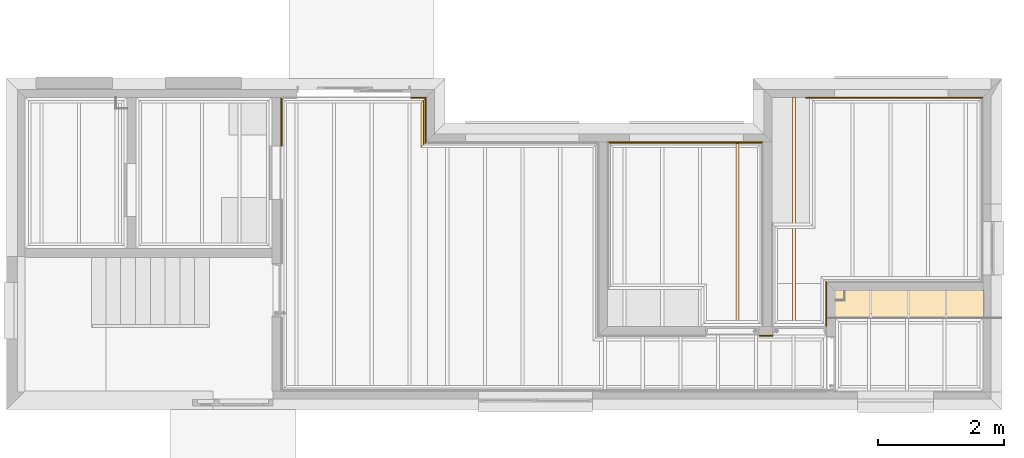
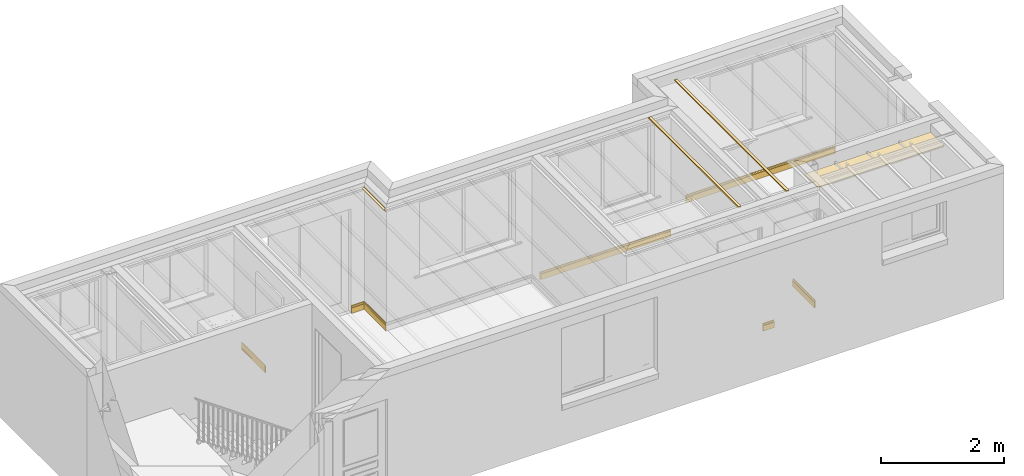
# One storey, part 5 of 15: 11 coverings.
"""IFC2X3 building model written with IfcOpenShell, lengths in millimetres."""

from ifc_helpers import new_model, entity, si_unit, converted_unit, money_unit, direction, frame, origin_with_axes, place, context, subcontext, project, spatial, faceted_brep, source, transform, mapped, material, type_object, element, save


model = new_model("IFC2X3")

# Units and contexts
model_context = context("Model", 3, precision=1e-05, world=origin_with_axes(), true_north=direction((0.0, 1.0)))
body_context = subcontext(model_context, "Body", "Model", "MODEL_VIEW")
ifc_project = project(units=[si_unit("LENGTHUNIT", "METRE", prefix="MILLI"), si_unit("AREAUNIT", "SQUARE_METRE"), si_unit("VOLUMEUNIT", "CUBIC_METRE"), converted_unit("PLANEANGLEUNIT", "DEGREE", entity("IfcPlaneAngleMeasure", 0.0174532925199), si_unit("PLANEANGLEUNIT", "RADIAN"), dimensions=[0, 0, 0, 0, 0, 0, 0]), si_unit("SOLIDANGLEUNIT", "STERADIAN"), money_unit("AUD"), si_unit("TIMEUNIT", "SECOND"), si_unit("MASSUNIT", "GRAM"), si_unit("THERMODYNAMICTEMPERATUREUNIT", "DEGREE_CELSIUS"), si_unit("LUMINOUSINTENSITYUNIT", "LUMEN")], contexts=[model_context])

# Site, building, storey
site_placement = place(None, origin_with_axes())
site = spatial("IfcSite", under=ifc_project, at=site_placement, Name="Lot 1. East Hills", CompositionType="ELEMENT")
building_placement = place(site_placement, origin_with_axes())
building = spatial("IfcBuilding", under=site, at=building_placement, Name="Proposed Units 7 & 8", CompositionType="ELEMENT")
storey_placement = place(building_placement, frame((0.0, 0.0, 3202.0), z_axis=(0.0, 0.0, 1.0), x_axis=(1.0, 0.0, 0.0)))
storey = spatial("IfcBuildingStorey", under=building, at=storey_placement, Name="Ground", CompositionType="ELEMENT", Elevation=3202.0)

# Coverings
ifc_material = material(Name="50 %")
covering_type_1 = type_object("IfcCoveringType", Name="CEILING BATTEN", PredefinedType="NOTDEFINED")
shared_shape_1 = source(origin_with_axes(), body_context, "Body", "Brep", [
    faceted_brep([(0.0, 0.0, 0.0), (0.0, 0.0, 25.0), (-2935.00000134, 0.0, 25.0), (-2935.00000134, 0.0, 0.0), (0.0, 50.0, 0.0), (0.0, 50.0, 25.0), (-2935.00000134, 50.0, 25.0), (-2935.00000134, 50.0, 0.0)], [[[0, 1, 2, 3]], [[4, 5, 1, 0]], [[1, 5, 6, 2]], [[3, 2, 6, 7]], [[0, 3, 7, 4]], [[7, 6, 5, 4]]]),
])
covering_1_placement = place(storey_placement, frame((11656.4701329, 4258.00000119, 2482.0), z_axis=(0.0, 0.0, 1.0), x_axis=(0.0, 1.0, 0.0)))
element("IfcCovering", 1, at=covering_1_placement, inside=storey, type_object=covering_type_1, material=ifc_material, Name="CEL-WALL-G02 - CEILING BATTEN - object -", PredefinedType="CEILING", context=body_context, shape_type="MappedRepresentation", body=[
    mapped(shared_shape_1, transform((0.0, 0.0, 0.0))),
])
shared_shape_2 = source(origin_with_axes(), body_context, "Body", "Brep", [
    faceted_brep([(0.0, 0.0, 0.0), (0.0, 0.0, 25.0), (-3645.00000134, 0.0, 25.0), (-3645.00000134, 0.0, 0.0), (0.0, 50.0, 0.0), (0.0, 50.0, 25.0), (-3645.00000134, 50.0, 25.0), (-3645.00000134, 50.0, 0.0)], [[[0, 1, 2, 3]], [[4, 5, 1, 0]], [[1, 5, 6, 2]], [[3, 2, 6, 7]], [[0, 3, 7, 4]], [[7, 6, 5, 4]]]),
])
covering_2_placement = place(storey_placement, frame((12556.5056675, 4968.00000119, 2482.0), z_axis=(0.0, 0.0, 1.0), x_axis=(0.0, 1.0, 0.0)))
element("IfcCovering", 2, at=covering_2_placement, inside=storey, type_object=covering_type_1, material=ifc_material, Name="CEL-WALL-G03 - CEILING BATTEN - object -", PredefinedType="CEILING", context=body_context, shape_type="MappedRepresentation", body=[
    mapped(shared_shape_2, transform((0.0, 0.0, 0.0))),
])
covering_type_2 = type_object("IfcCoveringType", Name="Molding Straight 12", PredefinedType="NOTDEFINED")
shared_shape_3 = source(origin_with_axes(), body_context, "Body", "Brep", [
    faceted_brep([(710.0, 0.0, -97.7142857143), (730.571428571, -20.5714285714, -97.7142857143), (20.5714285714, -20.5714285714, -97.7142857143), (0.0, 0.0, -97.7142857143), (710.0, 0.0, -48.8571428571), (758.857142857, -48.8571428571, 0.0), (800.0, -90.0, 0.0), (800.0, -90.0, -12.8571428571), (784.571428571, -74.5714285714, -12.8571428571), (784.571428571, -74.5714285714, -25.7142857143), (770.595200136, -60.5952001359, -27.5542910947), (757.571428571, -47.5714285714, -32.9489139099), (746.387662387, -36.3876623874, -41.5305195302), (737.806056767, -27.8060567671, -52.7142857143), (732.411433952, -22.4114339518, -65.7380572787), (730.571428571, -20.5714285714, -79.7142857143), (20.5714285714, -20.5714285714, -79.7142857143), (22.4114339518, -22.4114339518, -65.7380572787), (27.8060567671, -27.8060567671, -52.7142857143), (36.3876623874, -36.3876623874, -41.5305195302), (47.5714285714, -47.5714285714, -32.9489139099), (60.5952001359, -60.5952001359, -27.5542910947), (74.5714285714, -74.5714285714, -25.7142857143), (74.5714285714, -74.5714285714, -12.8571428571), (90.0, -90.0, -12.8571428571), (90.0, -90.0, 0.0), (48.8571428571, -48.8571428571, 0.0), (0.0, 0.0, -48.8571428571)], [[[0, 1, 2, 3]], [[0, 4, 5, 6, 7, 8, 9, 10, 11, 12, 13, 14, 15, 1]], [[1, 15, 16, 2]], [[3, 2, 16, 17, 18, 19, 20, 21, 22, 23, 24, 25, 26, 27]], [[4, 0, 3, 27]], [[5, 4, 27, 26]], [[6, 5, 26, 25]], [[7, 6, 25, 24]], [[8, 7, 24, 23]], [[9, 8, 23, 22]], [[10, 9, 22, 21]], [[11, 10, 21, 20]], [[12, 11, 20, 19]], [[13, 12, 19, 18]], [[14, 13, 18, 17]], [[15, 14, 17, 16]]]),
])
covering_3_placement = place(storey_placement, frame((6680.00000119, 4968.00000119, 2469.0), z_axis=(0.0, 0.0, 1.0), x_axis=(0.0, -1.0, 0.0)))
element("IfcCovering", 3, at=covering_3_placement, inside=storey, type_object=covering_type_2, material=ifc_material, Name="CEL-MOD-G16 - Molding Straight 12 - object -", PredefinedType="NOTDEFINED", context=body_context, shape_type="MappedRepresentation", body=[
    mapped(shared_shape_3, transform((0.0, 0.0, 0.0))),
])
covering_type_3 = type_object("IfcCoveringType", Name="EAVES FC LINNING L1", PredefinedType="NOTDEFINED")
shared_shape_4 = source(origin_with_axes(), body_context, "Body", "Brep", [
    faceted_brep([(0.0, 0.0, 0.0), (2375.0000006, 0.0, 0.0), (2375.0000006, 0.0, 13.0), (0.0, 0.0, 13.0), (0.0, 437.000520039, 0.0), (2375.0000006, 437.000520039, 0.0), (2375.0000006, 437.000520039, 13.0), (0.0, 437.000520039, 13.0)], [[[0, 1, 2, 3]], [[0, 4, 5, 1]], [[1, 5, 6, 2]], [[3, 2, 6, 7]], [[4, 0, 3, 7]], [[5, 4, 7, 6]]]),
])
covering_4_placement = place(storey_placement, frame((13175.0000001, 1460.99947929, 2250.05864749), z_axis=(0.0, 0.0, 1.0), x_axis=(1.0, 0.0, 0.0)))
element("IfcCovering", 4, at=covering_4_placement, inside=storey, type_object=covering_type_3, material=ifc_material, Name="CEL-MOD-G23 - EAVES FC LINNING L1 - object -", PredefinedType="CEILING", context=body_context, shape_type="MappedRepresentation", body=[
    mapped(shared_shape_4, transform((0.0, 0.0, 0.0))),
])
shared_shape_5 = source(origin_with_axes(), body_context, "Body", "Brep", [
    faceted_brep([(755.969104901, -19.0298507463, -150.0), (755.969104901, -19.0298507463, -40.2985074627), (-0.770391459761, -19.0298507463, -40.2985074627), (-0.770391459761, -19.0298507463, -150.0), (774.998955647, 0.0, -150.0), (774.998955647, 0.0, -120.895522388), (772.760149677, -2.23880597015, -118.656716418), (772.760149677, -2.23880597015, -24.6268656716), (774.998955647, 0.0, -22.3880597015), (774.998955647, 0.0, 0.0), (768.282537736, -6.71641791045, 0.0), (766.043731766, -8.9552238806, -4.4776119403), (765.806984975, -9.19197067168, -5.17383533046), (765.765796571, -9.23315907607, -5.90805571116), (765.923189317, -9.07576633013, -6.62638959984), (766.267612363, -8.73134328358, -7.27611940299), (766.827742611, -8.1712130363, -8.36014699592), (767.051194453, -7.94776119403, -9.55970149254), (766.750418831, -8.2485368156, -12.6066468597), (765.641066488, -9.35788915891, -15.4603601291), (763.804925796, -11.1940298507, -17.9104477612), (759.377758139, -15.6211975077, -24.0923863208), (757.088507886, -17.9104477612, -31.3432835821), (757.073234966, -17.9257206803, -33.6342255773), (757.697477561, -17.3014780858, -35.8385326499), (758.911701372, -16.087254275, -37.7812907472), (760.61955648, -14.3793991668, -39.3083399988), (762.685522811, -12.3134328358, -40.2985074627), (-0.49848859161, -12.3134328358, -40.2985074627), (-0.582125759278, -14.3793991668, -39.3083399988), (-0.651265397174, -16.087254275, -37.7812907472), (-0.70042120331, -17.3014780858, -35.8385326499), (-0.725692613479, -17.9257206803, -33.6342255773), (-0.725074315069, -17.9104477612, -31.3432835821), (-0.632397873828, -15.6211975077, -24.0923863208), (-0.453171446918, -11.1940298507, -17.9104477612), (-0.378838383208, -9.35788915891, -15.4603601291), (-0.333928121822, -8.2485368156, -12.6066468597), (-0.321751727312, -7.94776119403, -9.55970149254), (-0.330797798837, -8.1712130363, -8.36014699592), (-0.353473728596, -8.73134328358, -7.27611940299), (-0.367417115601, -9.07576633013, -6.62638959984), (-0.37378889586, -9.23315907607, -5.90805571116), (-0.372121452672, -9.19197067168, -5.17383533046), (-0.362537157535, -8.9552238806, -4.4776119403), (-0.271902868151, -6.71641791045, 0.0), (0.0, 0.0, 0.0), (0.0, 0.0, -22.3880597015), (-0.0906342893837, -2.23880597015, -24.6268656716), (-0.0906342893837, -2.23880597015, -118.656716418), (0.0, 0.0, -120.895522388), (0.0, 0.0, -150.0)], [[[0, 1, 2, 3]], [[0, 4, 5, 6, 7, 8, 9, 10, 11, 12, 13, 14, 15, 16, 17, 18, 19, 20, 21, 22, 23, 24, 25, 26, 27, 1]], [[1, 27, 28, 2]], [[3, 2, 28, 29, 30, 31, 32, 33, 34, 35, 36, 37, 38, 39, 40, 41, 42, 43, 44, 45, 46, 47, 48, 49, 50, 51]], [[4, 0, 3, 51]], [[5, 4, 51, 50]], [[6, 5, 50, 49]], [[7, 6, 49, 48]], [[8, 7, 48, 47]], [[9, 8, 47, 46]], [[10, 9, 46, 45]], [[11, 10, 45, 44]], [[12, 11, 44, 43]], [[13, 12, 43, 42]], [[14, 13, 42, 41]], [[15, 14, 41, 40]], [[16, 15, 40, 39]], [[17, 16, 39, 38]], [[18, 17, 38, 37]], [[19, 18, 37, 36]], [[20, 19, 36, 35]], [[21, 20, 35, 34]], [[22, 21, 34, 33]], [[23, 22, 33, 32]], [[24, 23, 32, 31]], [[25, 24, 31, 30]], [[26, 25, 30, 29]], [[27, 26, 29, 28]]]),
])
covering_5_placement = place(storey_placement, frame((4365.00803954, 4193.00104557, 150.0), z_axis=(0.0, 0.0, 1.0), x_axis=(-7.51477654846e-06, 0.999999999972, 0.0)))
element("IfcCovering", 5, at=covering_5_placement, inside=storey, type_object=covering_type_2, material=ifc_material, Name="Sk_01 - Molding Straight 12 - object -", PredefinedType="NOTDEFINED", context=body_context, shape_type="MappedRepresentation", body=[
    mapped(shared_shape_5, transform((0.0, 0.0, 0.0))),
])
shared_shape_6 = source(origin_with_axes(), body_context, "Body", "Brep", [
    faceted_brep([(233.467932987, -19.0298507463, -150.0), (233.467932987, -19.0298507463, -40.2985074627), (0.0, -19.0298507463, -40.2985074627), (0.0, -19.0298507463, -150.0), (252.497783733, 0.0, -150.0), (252.497783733, 0.0, -120.895522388), (250.258977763, -2.23880597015, -118.656716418), (250.258977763, -2.23880597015, -24.6268656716), (252.497783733, 0.0, -22.3880597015), (252.497783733, 0.0, 0.0), (245.781365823, -6.71641791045, 0.0), (243.542559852, -8.9552238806, -4.4776119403), (243.305813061, -9.19197067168, -5.17383533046), (243.264624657, -9.23315907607, -5.90805571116), (243.422017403, -9.07576633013, -6.62638959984), (243.766440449, -8.73134328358, -7.27611940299), (244.326570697, -8.1712130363, -8.36014699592), (244.550022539, -7.94776119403, -9.55970149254), (244.249246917, -8.2485368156, -12.6066468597), (243.139894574, -9.35788915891, -15.4603601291), (241.303753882, -11.1940298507, -17.9104477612), (236.876586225, -15.6211975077, -24.0923863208), (234.587335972, -17.9104477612, -31.3432835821), (234.572063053, -17.9257206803, -33.6342255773), (235.196305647, -17.3014780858, -35.8385326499), (236.410529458, -16.087254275, -37.7812907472), (238.118384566, -14.3793991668, -39.3083399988), (240.184350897, -12.3134328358, -40.2985074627), (0.0, -12.3134328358, -40.2985074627), (0.0, -14.3793991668, -39.3083399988), (0.0, -16.087254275, -37.7812907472), (0.0, -17.3014780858, -35.8385326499), (0.0, -17.9257206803, -33.6342255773), (0.0, -17.9104477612, -31.3432835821), (0.0, -15.6211975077, -24.0923863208), (0.0, -11.1940298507, -17.9104477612), (0.0, -9.35788915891, -15.4603601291), (0.0, -8.2485368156, -12.6066468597), (0.0, -7.94776119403, -9.55970149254), (0.0, -8.1712130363, -8.36014699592), (0.0, -8.73134328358, -7.27611940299), (0.0, -9.07576633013, -6.62638959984), (0.0, -9.23315907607, -5.90805571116), (0.0, -9.19197067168, -5.17383533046), (0.0, -8.9552238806, -4.4776119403), (0.0, -6.71641791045, 0.0), (0.0, 0.0, 0.0), (0.0, 0.0, -22.3880597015), (0.0, -2.23880597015, -24.6268656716), (0.0, -2.23880597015, -118.656716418), (0.0, 0.0, -120.895522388), (0.0, 0.0, -150.0)], [[[0, 1, 2, 3]], [[0, 4, 5, 6, 7, 8, 9, 10, 11, 12, 13, 14, 15, 16, 17, 18, 19, 20, 21, 22, 23, 24, 25, 26, 27, 1]], [[1, 27, 28, 2]], [[3, 2, 28, 29, 30, 31, 32, 33, 34, 35, 36, 37, 38, 39, 40, 41, 42, 43, 44, 45, 46, 47, 48, 49, 50, 51]], [[4, 0, 3, 51]], [[5, 4, 51, 50]], [[6, 5, 50, 49]], [[7, 6, 49, 48]], [[8, 7, 48, 47]], [[9, 8, 47, 46]], [[10, 9, 46, 45]], [[11, 10, 45, 44]], [[12, 11, 44, 43]], [[13, 12, 43, 42]], [[14, 13, 42, 41]], [[15, 14, 41, 40]], [[16, 15, 40, 39]], [[17, 16, 39, 38]], [[18, 17, 38, 37]], [[19, 18, 37, 36]], [[20, 19, 36, 35]], [[21, 20, 35, 34]], [[22, 21, 34, 33]], [[23, 22, 33, 32]], [[24, 23, 32, 31]], [[25, 24, 31, 30]], [[26, 25, 30, 29]], [[27, 26, 29, 28]]]),
])
covering_6_placement = place(storey_placement, frame((6427.49999933, 4968.00000119, 150.0), z_axis=(0.0, 0.0, 1.0), x_axis=(1.0, 0.0, 0.0)))
element("IfcCovering", 6, at=covering_6_placement, inside=storey, type_object=covering_type_2, material=ifc_material, Name="Sk_01 - Molding Straight 12 - object -", PredefinedType="NOTDEFINED", context=body_context, shape_type="MappedRepresentation", body=[
    mapped(shared_shape_6, transform((0.0, 0.0, 0.0))),
])
shared_shape_7 = source(origin_with_axes(), body_context, "Body", "Brep", [
    faceted_brep([(729.032068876, -19.0298507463, -150.0), (729.032068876, -19.0298507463, -40.2985074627), (19.0298507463, -19.0298507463, -40.2985074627), (19.0298507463, -19.0298507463, -150.0), (710.00221813, 0.0, -150.0), (710.00221813, 0.0, -120.895522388), (712.2410241, -2.23880597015, -118.656716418), (712.2410241, -2.23880597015, -24.6268656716), (710.00221813, 0.0, -22.3880597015), (710.00221813, 0.0, 0.0), (716.71863604, -6.71641791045, 0.0), (718.95744201, -8.9552238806, -4.4776119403), (719.194188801, -9.19197067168, -5.17383533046), (719.235377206, -9.23315907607, -5.90805571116), (719.07798446, -9.07576633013, -6.62638959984), (718.733561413, -8.73134328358, -7.27611940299), (718.173431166, -8.1712130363, -8.36014699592), (717.949979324, -7.94776119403, -9.55970149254), (718.250754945, -8.2485368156, -12.6066468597), (719.360107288, -9.35788915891, -15.4603601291), (721.19624798, -11.1940298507, -17.9104477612), (725.623415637, -15.6211975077, -24.0923863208), (727.912665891, -17.9104477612, -31.3432835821), (727.92793881, -17.9257206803, -33.6342255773), (727.303696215, -17.3014780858, -35.8385326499), (726.089472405, -16.087254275, -37.7812907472), (724.381617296, -14.3793991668, -39.3083399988), (722.315650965, -12.3134328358, -40.2985074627), (12.3134328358, -12.3134328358, -40.2985074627), (14.3793991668, -14.3793991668, -39.3083399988), (16.087254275, -16.087254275, -37.7812907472), (17.3014780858, -17.3014780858, -35.8385326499), (17.9257206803, -17.9257206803, -33.6342255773), (17.9104477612, -17.9104477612, -31.3432835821), (15.6211975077, -15.6211975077, -24.0923863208), (11.1940298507, -11.1940298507, -17.9104477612), (9.35788915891, -9.35788915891, -15.4603601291), (8.2485368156, -8.2485368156, -12.6066468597), (7.94776119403, -7.94776119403, -9.55970149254), (8.1712130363, -8.1712130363, -8.36014699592), (8.73134328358, -8.73134328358, -7.27611940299), (9.07576633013, -9.07576633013, -6.62638959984), (9.23315907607, -9.23315907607, -5.90805571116), (9.19197067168, -9.19197067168, -5.17383533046), (8.9552238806, -8.9552238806, -4.4776119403), (6.71641791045, -6.71641791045, 0.0), (0.0, 0.0, 0.0), (0.0, 0.0, -22.3880597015), (2.23880597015, -2.23880597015, -24.6268656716), (2.23880597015, -2.23880597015, -118.656716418), (0.0, 0.0, -120.895522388), (0.0, 0.0, -150.0)], [[[0, 1, 2, 3]], [[0, 4, 5, 6, 7, 8, 9, 10, 11, 12, 13, 14, 15, 16, 17, 18, 19, 20, 21, 22, 23, 24, 25, 26, 27, 1]], [[1, 27, 28, 2]], [[3, 2, 28, 29, 30, 31, 32, 33, 34, 35, 36, 37, 38, 39, 40, 41, 42, 43, 44, 45, 46, 47, 48, 49, 50, 51]], [[4, 0, 3, 51]], [[5, 4, 51, 50]], [[6, 5, 50, 49]], [[7, 6, 49, 48]], [[8, 7, 48, 47]], [[9, 8, 47, 46]], [[10, 9, 46, 45]], [[11, 10, 45, 44]], [[12, 11, 44, 43]], [[13, 12, 43, 42]], [[14, 13, 42, 41]], [[15, 14, 41, 40]], [[16, 15, 40, 39]], [[17, 16, 39, 38]], [[18, 17, 38, 37]], [[19, 18, 37, 36]], [[20, 19, 36, 35]], [[21, 20, 35, 34]], [[22, 21, 34, 33]], [[23, 22, 33, 32]], [[24, 23, 32, 31]], [[25, 24, 31, 30]], [[26, 25, 30, 29]], [[27, 26, 29, 28]]]),
])
covering_7_placement = place(storey_placement, frame((6680.00000119, 4968.00221932, 150.0), z_axis=(0.0, 0.0, 1.0), x_axis=(0.0, -1.0, 0.0)))
element("IfcCovering", 7, at=covering_7_placement, inside=storey, type_object=covering_type_2, material=ifc_material, Name="Sk_01 - Molding Straight 12 - object -", PredefinedType="NOTDEFINED", context=body_context, shape_type="MappedRepresentation", body=[
    mapped(shared_shape_7, transform((0.0, 0.0, 0.0))),
])
shared_shape_8 = source(origin_with_axes(), body_context, "Body", "Brep", [
    faceted_brep([(215.000000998, -19.0298507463, -150.0), (215.000000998, -19.0298507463, -40.2985074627), (0.0, -19.0298507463, -40.2985074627), (0.0, -19.0298507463, -150.0), (215.000000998, 0.0, -150.0), (215.000000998, 0.0, -120.895522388), (215.000000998, -2.23880597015, -118.656716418), (215.000000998, -2.23880597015, -24.6268656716), (215.000000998, 0.0, -22.3880597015), (215.000000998, 0.0, 0.0), (215.000000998, -6.71641791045, 0.0), (215.000000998, -8.9552238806, -4.4776119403), (215.000000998, -9.19197067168, -5.17383533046), (215.000000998, -9.23315907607, -5.90805571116), (215.000000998, -9.07576633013, -6.62638959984), (215.000000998, -8.73134328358, -7.27611940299), (215.000000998, -8.1712130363, -8.36014699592), (215.000000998, -7.94776119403, -9.55970149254), (215.000000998, -8.2485368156, -12.6066468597), (215.000000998, -9.35788915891, -15.4603601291), (215.000000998, -11.1940298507, -17.9104477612), (215.000000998, -15.6211975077, -24.0923863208), (215.000000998, -17.9104477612, -31.3432835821), (215.000000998, -17.9257206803, -33.6342255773), (215.000000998, -17.3014780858, -35.8385326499), (215.000000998, -16.087254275, -37.7812907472), (215.000000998, -14.3793991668, -39.3083399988), (215.000000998, -12.3134328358, -40.2985074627), (0.0, -12.3134328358, -40.2985074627), (0.0, -14.3793991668, -39.3083399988), (0.0, -16.087254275, -37.7812907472), (0.0, -17.3014780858, -35.8385326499), (0.0, -17.9257206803, -33.6342255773), (0.0, -17.9104477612, -31.3432835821), (0.0, -15.6211975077, -24.0923863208), (0.0, -11.1940298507, -17.9104477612), (0.0, -9.35788915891, -15.4603601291), (0.0, -8.2485368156, -12.6066468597), (0.0, -7.94776119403, -9.55970149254), (0.0, -8.1712130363, -8.36014699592), (0.0, -8.73134328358, -7.27611940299), (0.0, -9.07576633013, -6.62638959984), (0.0, -9.23315907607, -5.90805571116), (0.0, -9.19197067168, -5.17383533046), (0.0, -8.9552238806, -4.4776119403), (0.0, -6.71641791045, 0.0), (0.0, 0.0, 0.0), (0.0, 0.0, -22.3880597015), (0.0, -2.23880597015, -24.6268656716), (0.0, -2.23880597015, -118.656716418), (0.0, 0.0, -120.895522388), (0.0, 0.0, -150.0)], [[[0, 1, 2, 3]], [[0, 4, 5, 6, 7, 8, 9, 10, 11, 12, 13, 14, 15, 16, 17, 18, 19, 20, 21, 22, 23, 24, 25, 26, 27, 1]], [[1, 27, 28, 2]], [[3, 2, 28, 29, 30, 31, 32, 33, 34, 35, 36, 37, 38, 39, 40, 41, 42, 43, 44, 45, 46, 47, 48, 49, 50, 51]], [[4, 0, 3, 51]], [[5, 4, 51, 50]], [[6, 5, 50, 49]], [[7, 6, 49, 48]], [[8, 7, 48, 47]], [[9, 8, 47, 46]], [[10, 9, 46, 45]], [[11, 10, 45, 44]], [[12, 11, 44, 43]], [[13, 12, 43, 42]], [[14, 13, 42, 41]], [[15, 14, 41, 40]], [[16, 15, 40, 39]], [[17, 16, 39, 38]], [[18, 17, 38, 37]], [[19, 18, 37, 36]], [[20, 19, 36, 35]], [[21, 20, 35, 34]], [[22, 21, 34, 33]], [[23, 22, 33, 32]], [[24, 23, 32, 31]], [[25, 24, 31, 30]], [[26, 25, 30, 29]], [[27, 26, 29, 28]]]),
])
covering_8_placement = place(storey_placement, frame((11972.5000001, 1183.00000045, 150.0), z_axis=(0.0, 0.0, 1.0), x_axis=(1.0, 0.0, 0.0)))
element("IfcCovering", 8, at=covering_8_placement, inside=storey, type_object=covering_type_2, material=ifc_material, Name="Sk_01 - Molding Straight 12 - object -", PredefinedType="NOTDEFINED", context=body_context, shape_type="MappedRepresentation", body=[
    mapped(shared_shape_8, transform((0.0, 0.0, 0.0))),
])
shared_shape_9 = source(origin_with_axes(), body_context, "Body", "Brep", [
    faceted_brep([(2455.97015037, -19.0298507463, -150.0), (2455.97015037, -19.0298507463, -40.2985074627), (19.0298507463, -19.0298507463, -40.2985074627), (19.0298507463, -19.0298507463, -150.0), (2475.00000112, 0.0, -150.0), (2475.00000112, 0.0, -120.895522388), (2472.76119515, -2.23880597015, -118.656716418), (2472.76119515, -2.23880597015, -24.6268656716), (2475.00000112, 0.0, -22.3880597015), (2475.00000112, 0.0, 0.0), (2468.28358321, -6.71641791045, 0.0), (2466.04477724, -8.9552238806, -4.4776119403), (2465.80803045, -9.19197067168, -5.17383533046), (2465.76684204, -9.23315907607, -5.90805571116), (2465.92423479, -9.07576633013, -6.62638959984), (2466.26865783, -8.73134328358, -7.27611940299), (2466.82878808, -8.1712130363, -8.36014699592), (2467.05223992, -7.94776119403, -9.55970149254), (2466.7514643, -8.2485368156, -12.6066468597), (2465.64211196, -9.35788915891, -15.4603601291), (2463.80597127, -11.1940298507, -17.9104477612), (2459.37880361, -15.6211975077, -24.0923863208), (2457.08955336, -17.9104477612, -31.3432835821), (2457.07428044, -17.9257206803, -33.6342255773), (2457.69852303, -17.3014780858, -35.8385326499), (2458.91274684, -16.087254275, -37.7812907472), (2460.62060195, -14.3793991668, -39.3083399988), (2462.68656828, -12.3134328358, -40.2985074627), (12.3134328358, -12.3134328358, -40.2985074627), (14.3793991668, -14.3793991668, -39.3083399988), (16.087254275, -16.087254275, -37.7812907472), (17.3014780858, -17.3014780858, -35.8385326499), (17.9257206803, -17.9257206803, -33.6342255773), (17.9104477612, -17.9104477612, -31.3432835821), (15.6211975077, -15.6211975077, -24.0923863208), (11.1940298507, -11.1940298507, -17.9104477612), (9.35788915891, -9.35788915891, -15.4603601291), (8.2485368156, -8.2485368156, -12.6066468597), (7.94776119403, -7.94776119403, -9.55970149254), (8.1712130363, -8.1712130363, -8.36014699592), (8.73134328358, -8.73134328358, -7.27611940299), (9.07576633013, -9.07576633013, -6.62638959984), (9.23315907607, -9.23315907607, -5.90805571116), (9.19197067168, -9.19197067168, -5.17383533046), (8.9552238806, -8.9552238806, -4.4776119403), (6.71641791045, -6.71641791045, 0.0), (0.0, 0.0, 0.0), (0.0, 0.0, -22.3880597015), (2.23880597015, -2.23880597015, -24.6268656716), (2.23880597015, -2.23880597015, -118.656716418), (0.0, 0.0, -120.895522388), (0.0, 0.0, -150.0)], [[[0, 1, 2, 3]], [[0, 4, 5, 6, 7, 8, 9, 10, 11, 12, 13, 14, 15, 16, 17, 18, 19, 20, 21, 22, 23, 24, 25, 26, 27, 1]], [[1, 27, 28, 2]], [[3, 2, 28, 29, 30, 31, 32, 33, 34, 35, 36, 37, 38, 39, 40, 41, 42, 43, 44, 45, 46, 47, 48, 49, 50, 51]], [[4, 0, 3, 51]], [[5, 4, 51, 50]], [[6, 5, 50, 49]], [[7, 6, 49, 48]], [[8, 7, 48, 47]], [[9, 8, 47, 46]], [[10, 9, 46, 45]], [[11, 10, 45, 44]], [[12, 11, 44, 43]], [[13, 12, 43, 42]], [[14, 13, 42, 41]], [[15, 14, 41, 40]], [[16, 15, 40, 39]], [[17, 16, 39, 38]], [[18, 17, 38, 37]], [[19, 18, 37, 36]], [[20, 19, 36, 35]], [[21, 20, 35, 34]], [[22, 21, 34, 33]], [[23, 22, 33, 32]], [[24, 23, 32, 31]], [[25, 24, 31, 30]], [[26, 25, 30, 29]], [[27, 26, 29, 28]]]),
])
covering_9_placement = place(storey_placement, frame((9559.99999896, 4258.00000119, 150.0), z_axis=(0.0, 0.0, 1.0), x_axis=(1.0, 0.0, 0.0)))
element("IfcCovering", 9, at=covering_9_placement, inside=storey, type_object=covering_type_2, material=ifc_material, Name="Sk_01 - Molding Straight 12 - object -", PredefinedType="NOTDEFINED", context=body_context, shape_type="MappedRepresentation", body=[
    mapped(shared_shape_9, transform((0.0, 0.0, 0.0))),
])
shared_shape_10 = source(origin_with_axes(), body_context, "Body", "Brep", [
    faceted_brep([(2803.49087431, -19.0298507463, -150.0), (2803.49087431, -19.0298507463, -40.2985074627), (0.0, -19.0298507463, -40.2985074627), (0.0, -19.0298507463, -150.0), (2822.52072506, 0.0, -150.0), (2822.52072506, 0.0, -120.895522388), (2820.28191909, -2.23880597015, -118.656716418), (2820.28191909, -2.23880597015, -24.6268656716), (2822.52072506, 0.0, -22.3880597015), (2822.52072506, 0.0, 0.0), (2815.80430715, -6.71641791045, 0.0), (2813.56550118, -8.9552238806, -4.4776119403), (2813.32875439, -9.19197067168, -5.17383533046), (2813.28756598, -9.23315907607, -5.90805571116), (2813.44495873, -9.07576633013, -6.62638959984), (2813.78938177, -8.73134328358, -7.27611940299), (2814.34951202, -8.1712130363, -8.36014699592), (2814.57296386, -7.94776119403, -9.55970149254), (2814.27218824, -8.2485368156, -12.6066468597), (2813.1628359, -9.35788915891, -15.4603601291), (2811.32669521, -11.1940298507, -17.9104477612), (2806.89952755, -15.6211975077, -24.0923863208), (2804.6102773, -17.9104477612, -31.3432835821), (2804.59500438, -17.9257206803, -33.6342255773), (2805.21924697, -17.3014780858, -35.8385326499), (2806.43347078, -16.087254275, -37.7812907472), (2808.14132589, -14.3793991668, -39.3083399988), (2810.20729222, -12.3134328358, -40.2985074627), (0.0, -12.3134328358, -40.2985074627), (0.0, -14.3793991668, -39.3083399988), (0.0, -16.087254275, -37.7812907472), (0.0, -17.3014780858, -35.8385326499), (0.0, -17.9257206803, -33.6342255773), (0.0, -17.9104477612, -31.3432835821), (0.0, -15.6211975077, -24.0923863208), (0.0, -11.1940298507, -17.9104477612), (0.0, -9.35788915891, -15.4603601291), (0.0, -8.2485368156, -12.6066468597), (0.0, -7.94776119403, -9.55970149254), (0.0, -8.1712130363, -8.36014699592), (0.0, -8.73134328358, -7.27611940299), (0.0, -9.07576633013, -6.62638959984), (0.0, -9.23315907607, -5.90805571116), (0.0, -9.19197067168, -5.17383533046), (0.0, -8.9552238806, -4.4776119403), (0.0, -6.71641791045, 0.0), (0.0, 0.0, 0.0), (0.0, 0.0, -22.3880597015), (0.0, -2.23880597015, -24.6268656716), (0.0, -2.23880597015, -118.656716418), (0.0, 0.0, -120.895522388), (0.0, 0.0, -150.0)], [[[0, 1, 2, 3]], [[0, 4, 5, 6, 7, 8, 9, 10, 11, 12, 13, 14, 15, 16, 17, 18, 19, 20, 21, 22, 23, 24, 25, 26, 27, 1]], [[1, 27, 28, 2]], [[3, 2, 28, 29, 30, 31, 32, 33, 34, 35, 36, 37, 38, 39, 40, 41, 42, 43, 44, 45, 46, 47, 48, 49, 50, 51]], [[4, 0, 3, 51]], [[5, 4, 51, 50]], [[6, 5, 50, 49]], [[7, 6, 49, 48]], [[8, 7, 48, 47]], [[9, 8, 47, 46]], [[10, 9, 46, 45]], [[11, 10, 45, 44]], [[12, 11, 44, 43]], [[13, 12, 43, 42]], [[14, 13, 42, 41]], [[15, 14, 41, 40]], [[16, 15, 40, 39]], [[17, 16, 39, 38]], [[18, 17, 38, 37]], [[19, 18, 37, 36]], [[20, 19, 36, 35]], [[21, 20, 35, 34]], [[22, 21, 34, 33]], [[23, 22, 33, 32]], [[24, 23, 32, 31]], [[25, 24, 31, 30]], [[26, 25, 30, 29]], [[27, 26, 29, 28]]]),
])
covering_10_placement = place(storey_placement, frame((12712.3954069, 4968.00000119, 150.0), z_axis=(0.0, 0.0, 1.0), x_axis=(1.0, 0.0, 0.0)))
element("IfcCovering", 10, at=covering_10_placement, inside=storey, type_object=covering_type_2, material=ifc_material, Name="Sk_01 - Molding Straight 12 - object -", PredefinedType="NOTDEFINED", context=body_context, shape_type="MappedRepresentation", body=[
    mapped(shared_shape_10, transform((0.0, 0.0, 0.0))),
])
shared_shape_11 = source(origin_with_axes(), body_context, "Body", "Brep", [
    faceted_brep([(700.0104952, -19.0298507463, -150.0), (700.0104952, -19.0298507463, -40.2985074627), (-19.0298507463, -19.0298507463, -40.2985074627), (-19.0298507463, -19.0298507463, -150.0), (699.999998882, 0.0, -150.0), (699.999998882, 0.0, -120.895522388), (700.001233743, -2.23880597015, -118.656716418), (700.001233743, -2.23880597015, -24.6268656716), (699.999998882, 0.0, -22.3880597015), (699.999998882, 0.0, 0.0), (700.003703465, -6.71641791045, 0.0), (700.004938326, -8.9552238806, -4.4776119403), (700.005068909, -9.19197067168, -5.17383533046), (700.005091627, -9.23315907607, -5.90805571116), (700.005004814, -9.07576633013, -6.62638959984), (700.00481484, -8.73134328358, -7.27611940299), (700.004505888, -8.1712130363, -8.36014699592), (700.004382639, -7.94776119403, -9.55970149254), (700.004548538, -8.2485368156, -12.6066468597), (700.005160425, -9.35788915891, -15.4603601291), (700.006173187, -11.1940298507, -17.9104477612), (700.008615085, -15.6211975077, -24.0923863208), (700.00987777, -17.9104477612, -31.3432835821), (700.009886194, -17.9257206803, -33.6342255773), (700.00954188, -17.3014780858, -35.8385326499), (700.008872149, -16.087254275, -37.7812907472), (700.007930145, -14.3793991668, -39.3083399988), (700.006790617, -12.3134328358, -40.2985074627), (-12.3134328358, -12.3134328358, -40.2985074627), (-14.3793991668, -14.3793991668, -39.3083399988), (-16.087254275, -16.087254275, -37.7812907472), (-17.3014780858, -17.3014780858, -35.8385326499), (-17.9257206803, -17.9257206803, -33.6342255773), (-17.9104477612, -17.9104477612, -31.3432835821), (-15.6211975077, -15.6211975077, -24.0923863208), (-11.1940298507, -11.1940298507, -17.9104477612), (-9.35788915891, -9.35788915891, -15.4603601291), (-8.2485368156, -8.2485368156, -12.6066468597), (-7.94776119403, -7.94776119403, -9.55970149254), (-8.1712130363, -8.1712130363, -8.36014699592), (-8.73134328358, -8.73134328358, -7.27611940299), (-9.07576633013, -9.07576633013, -6.62638959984), (-9.23315907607, -9.23315907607, -5.90805571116), (-9.19197067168, -9.19197067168, -5.17383533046), (-8.9552238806, -8.9552238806, -4.4776119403), (-6.71641791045, -6.71641791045, 0.0), (0.0, 0.0, 0.0), (0.0, 0.0, -22.3880597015), (-2.23880597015, -2.23880597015, -24.6268656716), (-2.23880597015, -2.23880597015, -118.656716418), (0.0, 0.0, -120.895522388), (0.0, 0.0, -150.0)], [[[0, 1, 2, 3]], [[0, 4, 5, 6, 7, 8, 9, 10, 11, 12, 13, 14, 15, 16, 17, 18, 19, 20, 21, 22, 23, 24, 25, 26, 27, 1]], [[1, 27, 28, 2]], [[3, 2, 28, 29, 30, 31, 32, 33, 34, 35, 36, 37, 38, 39, 40, 41, 42, 43, 44, 45, 46, 47, 48, 49, 50, 51]], [[4, 0, 3, 51]], [[5, 4, 51, 50]], [[6, 5, 50, 49]], [[7, 6, 49, 48]], [[8, 7, 48, 47]], [[9, 8, 47, 46]], [[10, 9, 46, 45]], [[11, 10, 45, 44]], [[12, 11, 44, 43]], [[13, 12, 43, 42]], [[14, 13, 42, 41]], [[15, 14, 41, 40]], [[16, 15, 40, 39]], [[17, 16, 39, 38]], [[18, 17, 38, 37]], [[19, 18, 37, 36]], [[20, 19, 36, 35]], [[21, 20, 35, 34]], [[22, 21, 34, 33]], [[23, 22, 33, 32]], [[24, 23, 32, 31]], [[25, 24, 31, 30]], [[26, 25, 30, 29]], [[27, 26, 29, 28]]]),
])
covering_11_placement = place(storey_placement, frame((13050.0000006, 2022.99999873, 150.0), z_axis=(0.0, 0.0, 1.0), x_axis=(0.0, -1.0, 0.0)))
element("IfcCovering", 11, at=covering_11_placement, inside=storey, type_object=covering_type_2, material=ifc_material, Name="Sk_01 - Molding Straight 12 - object -", PredefinedType="NOTDEFINED", context=body_context, shape_type="MappedRepresentation", body=[
    mapped(shared_shape_11, transform((0.0, 0.0, 0.0))),
])

save(model, "model.ifc")
